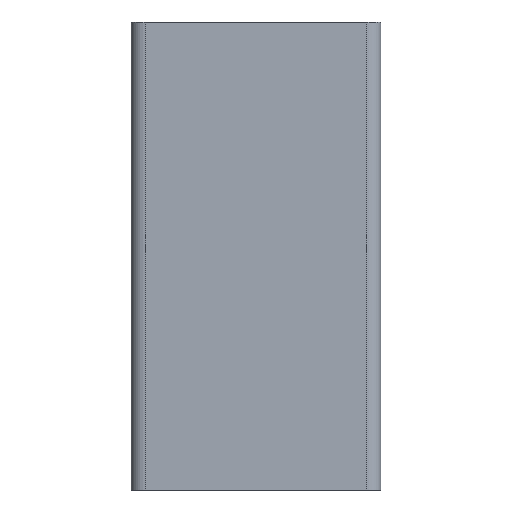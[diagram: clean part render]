
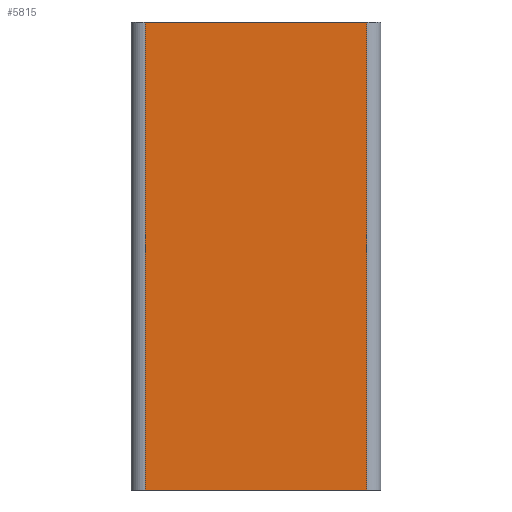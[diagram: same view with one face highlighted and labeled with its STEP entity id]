
A CAD part, front view. The second image highlights one B-rep face of the part: STEP entity #5815.
In plain terms, the highlighted planar face has unit normal (0, -1, 0).
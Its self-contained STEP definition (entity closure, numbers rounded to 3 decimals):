
#323=CARTESIAN_POINT('',(277.899,96.452,0.0));
#324=VERTEX_POINT('',#323);
#325=CARTESIAN_POINT('',(206.899,96.452,0.0));
#326=VERTEX_POINT('',#325);
#327=CARTESIAN_POINT('',(277.899,96.452,0.0));
#328=DIRECTION('',(-1.0,0.0,0.0));
#329=VECTOR('',#328,71.0);
#330=LINE('',#327,#329);
#331=EDGE_CURVE('',#324,#326,#330,.T.);
#1715=CARTESIAN_POINT('',(206.899,96.452,150.0));
#1716=VERTEX_POINT('',#1715);
#1726=CARTESIAN_POINT('',(277.899,96.452,150.0));
#1727=VERTEX_POINT('',#1726);
#1728=CARTESIAN_POINT('',(277.899,96.452,150.0));
#1729=DIRECTION('',(-1.0,0.0,0.0));
#1730=VECTOR('',#1729,71.0);
#1731=LINE('',#1728,#1730);
#1732=EDGE_CURVE('',#1727,#1716,#1731,.T.);
#3789=CARTESIAN_POINT('',(206.899,96.452,0.0));
#3790=DIRECTION('',(0.0,0.0,1.0));
#3791=VECTOR('',#3790,150.0);
#3792=LINE('',#3789,#3791);
#3793=EDGE_CURVE('',#326,#1716,#3792,.T.);
#5793=CARTESIAN_POINT('',(277.899,96.452,0.0));
#5794=DIRECTION('',(0.0,0.0,1.0));
#5795=VECTOR('',#5794,150.0);
#5796=LINE('',#5793,#5795);
#5797=EDGE_CURVE('',#324,#1727,#5796,.T.);
#5804=CARTESIAN_POINT('',(216.999,96.452,0.0));
#5805=DIRECTION('',(0.0,-1.0,0.0));
#5806=DIRECTION('',(0.0,0.0,-1.0));
#5807=AXIS2_PLACEMENT_3D('',#5804,#5805,#5806);
#5808=PLANE('',#5807);
#5809=ORIENTED_EDGE('',*,*,#1732,.T.);
#5810=ORIENTED_EDGE('',*,*,#3793,.F.);
#5811=ORIENTED_EDGE('',*,*,#331,.F.);
#5812=ORIENTED_EDGE('',*,*,#5797,.T.);
#5813=EDGE_LOOP('',(#5809,#5810,#5811,#5812));
#5814=FACE_OUTER_BOUND('',#5813,.T.);
#5815=ADVANCED_FACE('',(#5814),#5808,.T.);
